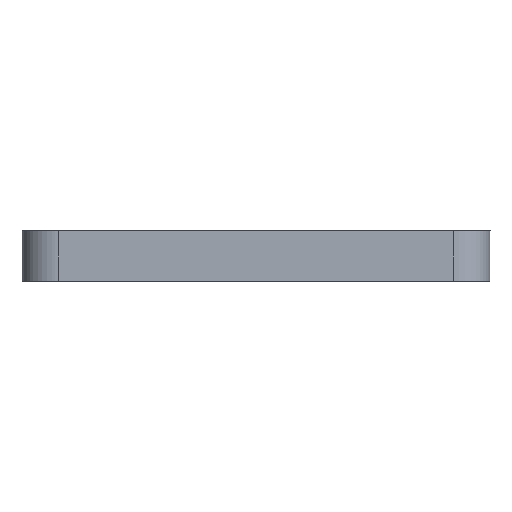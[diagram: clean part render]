
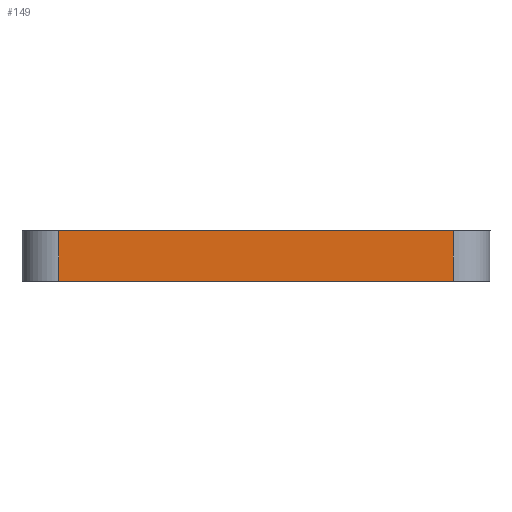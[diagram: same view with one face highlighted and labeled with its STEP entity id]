
A CAD part, left-side view. The second image highlights one B-rep face of the part: STEP entity #149.
In plain terms, the highlighted planar face has unit normal (-1, 0, 0).
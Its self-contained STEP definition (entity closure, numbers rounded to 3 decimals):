
#149=ADVANCED_FACE('',(#427),#4483,.T.);
#427=FACE_OUTER_BOUND('',#717,.T.);
#717=EDGE_LOOP('',(#1466,#1467,#1468,#1469));
#1466=ORIENTED_EDGE('',*,*,#2723,.T.);
#1467=ORIENTED_EDGE('',*,*,#2719,.T.);
#1468=ORIENTED_EDGE('',*,*,#2715,.F.);
#1469=ORIENTED_EDGE('',*,*,#2718,.F.);
#2715=EDGE_CURVE('',#4125,#4127,#3372,.T.);
#2718=EDGE_CURVE('',#4129,#4125,#3803,.T.);
#2719=EDGE_CURVE('',#4131,#4127,#3804,.T.);
#2723=EDGE_CURVE('',#4129,#4131,#3378,.T.);
#3372=(
BOUNDED_CURVE()
B_SPLINE_CURVE(1,(#8197,#8198),.UNSPECIFIED.,.F.,.F.)
B_SPLINE_CURVE_WITH_KNOTS((2,2),(0.,13.6),
 .UNSPECIFIED.)
CURVE()
GEOMETRIC_REPRESENTATION_ITEM()
RATIONAL_B_SPLINE_CURVE((1.,1.))
REPRESENTATION_ITEM('')
);
#3378=(
BOUNDED_CURVE()
B_SPLINE_CURVE(1,(#8216,#8217),.UNSPECIFIED.,.F.,.F.)
B_SPLINE_CURVE_WITH_KNOTS((2,2),(0.,13.6),
 .UNSPECIFIED.)
CURVE()
GEOMETRIC_REPRESENTATION_ITEM()
RATIONAL_B_SPLINE_CURVE((1.,1.))
REPRESENTATION_ITEM('')
);
#3803=B_SPLINE_CURVE_WITH_KNOTS('',1,(#8204,#8205),.UNSPECIFIED.,.F.,.F.,
(2,2),(10.,117.074),.UNSPECIFIED.);
#3804=B_SPLINE_CURVE_WITH_KNOTS('',1,(#8206,#8207),.UNSPECIFIED.,.F.,.F.,
(2,2),(10.,117.074),.UNSPECIFIED.);
#4125=VERTEX_POINT('',#6902);
#4127=VERTEX_POINT('',#6904);
#4129=VERTEX_POINT('',#6906);
#4131=VERTEX_POINT('',#6908);
#4483=PLANE('',#4856);
#4856=AXIS2_PLACEMENT_3D('',#5320,#5088,$);
#5088=DIRECTION('',(-1.,0.,0.));
#5320=CARTESIAN_POINT('',(-63.537,-63.537,0.));
#6902=CARTESIAN_POINT('',(-63.537,-53.537,13.6));
#6904=CARTESIAN_POINT('',(-63.537,-53.537,0.));
#6906=CARTESIAN_POINT('',(-63.537,53.537,13.6));
#6908=CARTESIAN_POINT('',(-63.537,53.537,0.));
#8197=CARTESIAN_POINT('',(-63.537,-53.537,13.6));
#8198=CARTESIAN_POINT('',(-63.537,-53.537,0.));
#8204=CARTESIAN_POINT('',(-63.537,53.537,13.6));
#8205=CARTESIAN_POINT('',(-63.537,-53.537,13.6));
#8206=CARTESIAN_POINT('',(-63.537,53.537,0.));
#8207=CARTESIAN_POINT('',(-63.537,-53.537,0.));
#8216=CARTESIAN_POINT('',(-63.537,53.537,13.6));
#8217=CARTESIAN_POINT('',(-63.537,53.537,0.));
